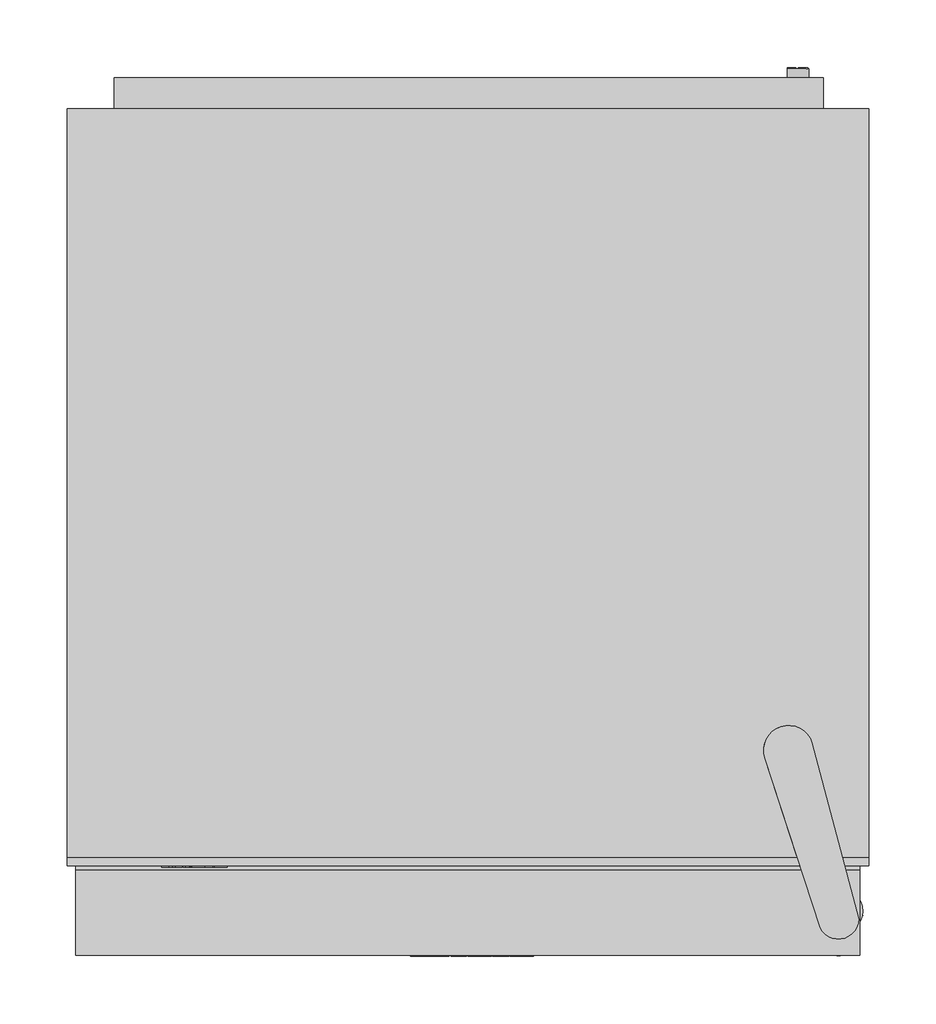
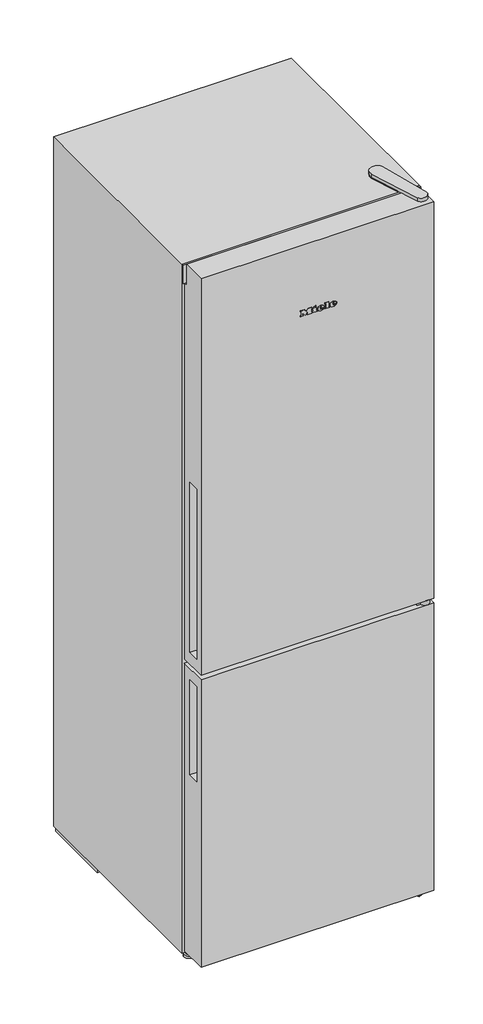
# Not in any storey: 1 proxy.
"""IFC4 building model written with IfcOpenShell, lengths in millimetres."""

import ifcopenshell
import ifcopenshell.guid

model = None  # the IFC model being written
_history = None  # IfcOwnerHistory: only IFC2X3 demands one
_inside = {}  # id of a spatial element -> (the spatial element, [elements in it])
_under = {}  # id of a project, library or spatial element -> (it, [spatial elements below it])
_declared = {}  # id of a project -> (the project, [libraries it declares])
_typed = {}  # id of a type object -> (the type object, [elements of that type])
_made_of = {}  # id of a material, layer set ... -> (it, [elements and type objects made of it])


def new_model(schema):
    """Start an empty IFC model of exactly this schema.

    Asked for "IFC4X3", IfcOpenShell would pick the latest addendum, in which some entities
    have other attributes; the version numbers below select the first issue.
    IFC2X3 requires an IfcOwnerHistory on every rooted entity: one is made here for all.
    """
    global model, _history
    if schema == "IFC4X3":
        model = ifcopenshell.file(schema_version=(4, 3, 0, 0))
    else:
        model = ifcopenshell.file(schema=schema)
    _inside.clear()
    _under.clear()
    _declared.clear()
    _typed.clear()
    _made_of.clear()
    _history = None
    if model.schema == "IFC2X3":
        org = make("IfcOrganization", Name="unknown")
        user = make(
            "IfcPersonAndOrganization",
            ThePerson=make("IfcPerson", FamilyName="unknown"),
            TheOrganization=org,
        )
        app = make(
            "IfcApplication",
            ApplicationDeveloper=org,
            Version="unknown",
            ApplicationFullName="unknown",
            ApplicationIdentifier="unknown",
        )
        _history = make(
            "IfcOwnerHistory",
            OwningUser=user,
            OwningApplication=app,
            ChangeAction="ADDED",
            CreationDate=0,
        )
    return model


def make(cls, **values):
    """One entity of the class cls with the attributes given. An attribute that is None is left unset."""
    return model.create_entity(
        cls, **{name: value for name, value in values.items() if value is not None}
    )


def rooted(cls, **values):
    """An entity with a GlobalId (a new one), such as an element, a storey or a relation."""
    return make(cls, GlobalId=ifcopenshell.guid.new(), OwnerHistory=_history, **values)


def si_unit(unit_type, name, prefix=None):
    """IfcSIUnit, for example si_unit("LENGTHUNIT", "METRE", prefix="MILLI")."""
    return make("IfcSIUnit", UnitType=unit_type, Prefix=prefix, Name=name)


def assignment(units):
    """IfcUnitAssignment: the units of a project."""
    return None if units is None else make("IfcUnitAssignment", Units=units)


def point(xyz):
    """IfcCartesianPoint."""
    return None if xyz is None else make("IfcCartesianPoint", Coordinates=xyz)


def direction(xyz):
    """IfcDirection."""
    return None if xyz is None else make("IfcDirection", DirectionRatios=xyz)


def frame(location, z_axis=None, x_axis=None):
    """IfcAxis2Placement3D, a coordinate frame: its origin and axes. An axis left out is left unset."""
    return make(
        "IfcAxis2Placement3D",
        Location=point(location),
        Axis=direction(z_axis),
        RefDirection=direction(x_axis),
    )


def frame_2d(location, x_axis=None):
    """IfcAxis2Placement2D, a coordinate frame in the plane: its origin and x axis."""
    return make(
        "IfcAxis2Placement2D", Location=point(location), RefDirection=direction(x_axis)
    )


def origin():
    """The frame at (0, 0, 0) with its axes left unset."""
    return frame((0.0, 0.0, 0.0))


def origin_with_axes():
    """The frame at (0, 0, 0) with the z axis (0, 0, 1) and the x axis (1, 0, 0) written out."""
    return frame((0.0, 0.0, 0.0), z_axis=(0.0, 0.0, 1.0), x_axis=(1.0, 0.0, 0.0))


def place(relative_to, where):
    """IfcLocalPlacement: puts the frame where relative to a parent placement (None: the world)."""
    return make(
        "IfcLocalPlacement", PlacementRelTo=relative_to, RelativePlacement=where
    )


def context(
    kind, dimensions, precision=None, world=None, true_north=None, identifier=None
):
    """IfcGeometricRepresentationContext, for example the 3D "Model" context."""
    return make(
        "IfcGeometricRepresentationContext",
        ContextIdentifier=identifier,
        ContextType=kind,
        CoordinateSpaceDimension=dimensions,
        Precision=precision,
        WorldCoordinateSystem=world,
        TrueNorth=true_north,
    )


def project(units=None, contexts=None):
    """IfcProject with its units and contexts."""
    return rooted(
        "IfcProject",
        Name="project",
        RepresentationContexts=contexts,
        UnitsInContext=assignment(units),
    )


def spatial(cls, under=None, at=None, **own):
    """A site, building, storey or space (cls), placed at a placement, below another one or the project."""
    s = rooted(cls, ObjectPlacement=at, **own)
    if under is not None:
        _under.setdefault(under.id(), (under, []))[1].append(s)
    return s


def polyline(points):
    """IfcPolyline through the points."""
    return make("IfcPolyline", Points=[point(p) for p in points])


def circle_curve(where, radius):
    """IfcCircle in the frame where."""
    return make("IfcCircle", Position=where, Radius=radius)


def ellipse_curve(where, semi_axis1, semi_axis2):
    """IfcEllipse in the frame where."""
    return make(
        "IfcEllipse", Position=where, SemiAxis1=semi_axis1, SemiAxis2=semi_axis2
    )


def trimmed(basis, trim1, trim2, sense, master):
    """IfcTrimmedCurve: the piece of a basis curve between two trims."""
    return make(
        "IfcTrimmedCurve",
        BasisCurve=basis,
        Trim1=trim1,
        Trim2=trim2,
        SenseAgreement=sense,
        MasterRepresentation=master,
    )


def segment(curve, same_sense, transition):
    """IfcCompositeCurveSegment."""
    return make(
        "IfcCompositeCurveSegment",
        Transition=transition,
        SameSense=same_sense,
        ParentCurve=curve,
    )


def composite_curve(segments, self_intersect=None):
    """IfcCompositeCurve: segments joined end to end."""
    return make("IfcCompositeCurve", Segments=segments, SelfIntersect=self_intersect)


def outline(outer, holes=None, kind="AREA"):
    """IfcArbitraryClosedProfileDef: a profile drawn as a closed curve; with holes, ...WithVoids."""
    if holes is None:
        return make("IfcArbitraryClosedProfileDef", ProfileType=kind, OuterCurve=outer)
    return make(
        "IfcArbitraryProfileDefWithVoids",
        ProfileType=kind,
        OuterCurve=outer,
        InnerCurves=holes,
    )


def extrude(swept, where, along, depth):
    """IfcExtrudedAreaSolid: the profile swept, set in the frame where, extruded along a direction by depth."""
    return make(
        "IfcExtrudedAreaSolid",
        SweptArea=swept,
        Position=where,
        ExtrudedDirection=direction(along),
        Depth=depth,
    )


def faces_of(points, faces, orient=None, outer=None):
    """IfcFace entities. A face is a list of loops; a loop is a list of indices into points, from 0.

    orient and outer hold one flag for each loop. By default every Orientation is true, the
    first loop of a face is its IfcFaceOuterBound and the others are IfcFaceBound.
    """
    made = []
    for i, loops in enumerate(faces):
        bounds = []
        for j, loop in enumerate(loops):
            is_outer = j == 0 if outer is None else outer[i][j]
            bounds.append(
                make(
                    "IfcFaceOuterBound" if is_outer else "IfcFaceBound",
                    Bound=make("IfcPolyLoop", Polygon=[points[k] for k in loop]),
                    Orientation=True if orient is None else orient[i][j],
                )
            )
        made.append(make("IfcFace", Bounds=bounds))
    return made


def faceted_brep(points, faces, orient=None, outer=None, voids=None):
    """IfcFacetedBrep: a solid bounded by flat faces; with voids (closed shells), ...WithVoids."""
    shared = [point(p) for p in points]
    hull = make("IfcClosedShell", CfsFaces=faces_of(shared, faces, orient, outer))
    if voids is None:
        return make("IfcFacetedBrep", Outer=hull)
    return make(
        "IfcFacetedBrepWithVoids",
        Outer=hull,
        Voids=[
            make(cls, CfsFaces=faces_of(shared, fs, o, b)) for cls, fs, o, b in voids
        ],
    )


def shape(context_of_items, identifier, shape_type, items):
    """IfcShapeRepresentation: the items that make up one representation, for example the "Body"."""
    return make(
        "IfcShapeRepresentation",
        ContextOfItems=context_of_items,
        RepresentationIdentifier=identifier,
        RepresentationType=shape_type,
        Items=items,
    )


def source(mapping_origin, context_of_items, identifier, shape_type, items):
    """IfcRepresentationMap: a shape defined once, which mapped items show again and again."""
    return make(
        "IfcRepresentationMap",
        MappingOrigin=mapping_origin,
        MappedRepresentation=shape(context_of_items, identifier, shape_type, items),
    )


def transform(
    local_origin,
    x_axis=None,
    y_axis=None,
    z_axis=None,
    scale=None,
    scale2=None,
    scale3=None,
    uniform=True,
):
    """IfcCartesianTransformationOperator3D, or its non-uniform kind. x_axis, y_axis, z_axis: its Axis1, 2, 3."""
    if uniform:
        return make(
            "IfcCartesianTransformationOperator3D",
            Axis1=direction(x_axis),
            Axis2=direction(y_axis),
            LocalOrigin=point(local_origin),
            Scale=scale,
            Axis3=direction(z_axis),
        )
    return make(
        "IfcCartesianTransformationOperator3DnonUniform",
        Axis1=direction(x_axis),
        Axis2=direction(y_axis),
        LocalOrigin=point(local_origin),
        Scale=scale,
        Axis3=direction(z_axis),
        Scale2=scale2,
        Scale3=scale3,
    )


def mapped(mapping_source, mapping_target):
    """IfcMappedItem: shows the shape of a source again, moved by a transform."""
    return make(
        "IfcMappedItem", MappingSource=mapping_source, MappingTarget=mapping_target
    )


def made_of(thing, what):
    """Note that an element or type object is made of a material, layer set ...; save() writes the relation."""
    if what is not None:
        _made_of.setdefault(what.id(), (what, []))[1].append(thing)
    return thing


def element(
    cls,
    number,
    at=None,
    inside=None,
    cuts=None,
    type_object=None,
    material=None,
    context=None,
    identifier="Body",
    shape_type=None,
    held_by="IfcProductDefinitionShape",
    body=None,
    shapes=None,
    **own,
):
    """One element of the class cls, such as IfcWall. Its Tag is "e" and its number.

    at: its placement. inside: the storey or other place that contains it. cuts: it is an
    opening in that element (IfcRelVoidsElement). A single representation is given by context,
    identifier, shape_type and body (its items); several are given by shapes. held_by: the class
    of the entity that holds the representations. save() writes the other relations.
    """
    e = rooted(cls, Tag="e%d" % number, ObjectPlacement=at, **own)
    if body is not None:
        shapes = [shape(context, identifier, shape_type, body)]
    if shapes is not None:
        e.Representation = make(held_by, Representations=shapes)
    if inside is not None:
        _inside.setdefault(inside.id(), (inside, []))[1].append(e)
    if cuts is not None:
        rooted(
            "IfcRelVoidsElement", RelatingBuildingElement=cuts, RelatedOpeningElement=e
        )
    if type_object is not None:
        _typed.setdefault(type_object.id(), (type_object, []))[1].append(e)
    return made_of(e, material)


def aggregate(whole, parts):
    """IfcRelAggregates: a whole, such as a stair, and the parts it consists of."""
    return rooted("IfcRelAggregates", RelatingObject=whole, RelatedObjects=parts)


def save(model, path):
    """Write the relations noted so far, then the file.

    IfcRelAggregates (storeys below a building ...), IfcRelContainedInSpatialStructure (elements
    in a storey), IfcRelDefinesByType, IfcRelAssociatesMaterial and IfcRelDeclares: one each for
    every whole, place, type object, material and project.
    """
    for whole, parts in _under.values():
        aggregate(whole, parts)
    for where, things in _inside.values():
        rooted(
            "IfcRelContainedInSpatialStructure",
            RelatedElements=things,
            RelatingStructure=where,
        )
    for kind, things in _typed.values():
        rooted("IfcRelDefinesByType", RelatedObjects=things, RelatingType=kind)
    for what, things in _made_of.values():
        rooted("IfcRelAssociatesMaterial", RelatedObjects=things, RelatingMaterial=what)
    for by, libraries in _declared.values():
        rooted("IfcRelDeclares", RelatingContext=by, RelatedDefinitions=libraries)
    model.write(path)


def plane_surface(at):
    """IfcPlane: the flat surface through the origin of the frame at, square to its z axis."""
    return make("IfcPlane", Position=at)


def cylinder_surface(at, radius):
    """IfcCylindricalSurface: all points at the distance radius from the z axis of the frame at."""
    return make("IfcCylindricalSurface", Position=at, Radius=radius)


def revolved_surface(curve, axis_point, axis_direction):
    """IfcSurfaceOfRevolution: the curve turned about the line through axis_point along axis_direction."""
    return make(
        "IfcSurfaceOfRevolution",
        SweptCurve=make("IfcArbitraryOpenProfileDef", ProfileType="CURVE", Curve=curve),
        AxisPosition=make("IfcAxis1Placement", Location=point(axis_point), Axis=direction(axis_direction)),
    )


def extruded_surface(curve, direction_of_extrusion, depth):
    """IfcSurfaceOfLinearExtrusion: the curve pushed along a direction by depth."""
    return make(
        "IfcSurfaceOfLinearExtrusion",
        SweptCurve=make("IfcArbitraryOpenProfileDef", ProfileType="CURVE", Curve=curve),
        ExtrudedDirection=direction(direction_of_extrusion),
        Depth=depth,
    )


def advanced_brep(points, edges, surfaces, faces):
    """IfcAdvancedBrep: a solid bounded by faces that lie on surfaces and meet in shared edges.

    An edge is (start, end): straight between two places in points (the first is 0);
    or (start, end, curve); or (start, end, curve, False) where it runs against its curve.
    A face is (place in surfaces, loops), or (place, loops, False) where it looks against
    its surface's normal. A loop lists edges by number (the first is 1), with a minus sign
    where the edge is run from its end to its start. The first loop is the outer one.
    """
    corners = [point(p) for p in points]
    vertices = [make("IfcVertexPoint", VertexGeometry=c) for c in corners]
    made = []
    for start, end, *more in edges:
        made.append(
            make(
                "IfcEdgeCurve",
                EdgeStart=vertices[start],
                EdgeEnd=vertices[end],
                EdgeGeometry=more[0] if more else make("IfcPolyline", Points=[corners[start], corners[end]]),
                SameSense=more[1] if len(more) > 1 else True,
            )
        )
    hull = []
    for where, loops, *sense in faces:
        bounds = []
        for j, loop in enumerate(loops):
            ring = [make("IfcOrientedEdge", EdgeElement=made[abs(k) - 1], Orientation=k > 0) for k in loop]
            bounds.append(
                make(
                    "IfcFaceOuterBound" if j == 0 else "IfcFaceBound",
                    Bound=make("IfcEdgeLoop", EdgeList=ring),
                    Orientation=True,
                )
            )
        hull.append(make("IfcAdvancedFace", Bounds=bounds, FaceSurface=surfaces[where], SameSense=sense[0] if sense else True))
    return make("IfcAdvancedBrep", Outer=make("IfcClosedShell", CfsFaces=hull))


def specialty_equipment_6a8d7af3(model_context):
    return source(origin(), model_context, "Body", "SolidModel", [
        advanced_brep(
        [(38.73, -654.0, 1668.515), (38.73, -654.0, 1670.03), (48.765, -654.0, 1670.03), (31.305, -654.0, 1670.03), (35.43, -654.0, 1664.96), (48.51, -654.0, 1668.515), (43.98, -654.0, 1668.515), (40.41, -654.0, 1666.835), (38.73, -654.0, 1671.95), (38.73, -654.0, 1673.585), (41.295, -654.0, 1673.585), (41.295, -654.0, 1671.95), (38.73, -653.0, 1668.515), (40.41, -653.0, 1666.835), (43.98, -653.0, 1668.515), (48.51, -653.0, 1668.515), (35.43, -653.0, 1664.96), (31.305, -653.0, 1670.03), (48.765, -653.0, 1670.03), (38.73, -653.0, 1670.03), (38.73, -653.0, 1671.95), (41.295, -653.0, 1671.95), (41.295, -653.0, 1673.585), (38.73, -653.0, 1673.585)],
        [
            (0, 1),
            (1, 2),
            (2, 3, ellipse_curve(frame((40.035, -654.0, 1670.03), z_axis=(0.0, -1.0, 0.0), x_axis=(-1.0, 0.0, 0.0)), 8.73, 7.215)),
            (3, 4, circle_curve(frame((37.1100818, -654.0, 1670.54), z_axis=(0.0, -1.0, 0.0), x_axis=(0.0, 0.0, -1.0)), 5.8274415)),
            (4, 5, circle_curve(frame((39.860238, -654.0, 1674.5), z_axis=(0.0, -1.0, 0.0), x_axis=(0.0, 0.0, -1.0)), 10.5184889)),
            (5, 6),
            (6, 7, circle_curve(frame((41.1432353, -654.0, 1669.91), z_axis=(0.0, 1.0, 0.0), x_axis=(0.0, 0.0, -1.0)), 3.1612116)),
            (7, 0, circle_curve(frame((40.41, -654.0, 1668.515), z_axis=(0.0, 1.0, 0.0), x_axis=(0.0, 0.0, -1.0)), 1.68)),
            (8, 9),
            (9, 10, circle_curve(frame((40.0125, -654.0, 1673.585), z_axis=(0.0, 1.0, 0.0), x_axis=(0.0, 0.0, -1.0)), 1.2825)),
            (10, 11),
            (11, 8),
            (12, 13, circle_curve(frame((40.41, -653.0, 1668.515), z_axis=(0.0, -1.0, 0.0), x_axis=(0.0, 0.0, -1.0)), 1.68)),
            (13, 14, circle_curve(frame((41.1432353, -653.0, 1669.91), z_axis=(0.0, -1.0, 0.0), x_axis=(0.0, 0.0, -1.0)), 3.1612116)),
            (14, 15),
            (15, 16, circle_curve(frame((39.860238, -653.0, 1674.5), z_axis=(0.0, 1.0, 0.0), x_axis=(0.0, 0.0, -1.0)), 10.5184889)),
            (16, 17, circle_curve(frame((37.1100818, -653.0, 1670.54), z_axis=(0.0, 1.0, 0.0), x_axis=(0.0, 0.0, -1.0)), 5.8274415)),
            (17, 18, ellipse_curve(frame((40.035, -653.0, 1670.03), z_axis=(0.0, 1.0, 0.0), x_axis=(-1.0, 0.0, 0.0)), 8.73, 7.215)),
            (18, 19),
            (19, 12),
            (20, 21),
            (21, 22),
            (22, 23, circle_curve(frame((40.0125, -653.0, 1673.585), z_axis=(0.0, -1.0, 0.0), x_axis=(0.0, 0.0, -1.0)), 1.2825)),
            (23, 20),
            (0, 12),
            (19, 1),
            (18, 2),
            (5, 15),
            (14, 6),
            (17, 3),
            (13, 7),
            (16, 4),
            (8, 20),
            (23, 9),
            (22, 10),
            (21, 11),
        ],
        [
            plane_surface(frame((38.73, -654.0, 1670.03), z_axis=(0.0, -1.0, 0.0), x_axis=(0.0, 0.0, 1.0))),
            plane_surface(frame((38.73, -653.0, 1670.03), z_axis=(0.0, 1.0, 0.0), x_axis=(0.0, 0.0, -1.0))),
            plane_surface(frame((38.73, -654.0, 1668.515), z_axis=(1.0, 0.0, 0.0), x_axis=(0.0, 1.0, 0.0))),
            plane_surface(frame((38.73, -654.0, 1670.03), z_axis=(0.0, 0.0, -1.0), x_axis=(0.0, 1.0, 0.0))),
            plane_surface(frame((48.51, -654.0, 1668.515), z_axis=(0.0, 0.0, 1.0), x_axis=(0.0, 1.0, 0.0))),
            extruded_surface(trimmed(ellipse_curve(frame((40.035, -652.0, 1670.03), z_axis=(0.0, -1.0, 0.0), x_axis=(-1.0, 0.0, 0.0)), 8.73, 7.215), [point((48.765, -652.0, 1670.03))], [point((31.305, -652.0, 1670.03))], True, "CARTESIAN"), (0.0, -1.0, 0.0), 1.0),
            revolved_surface(polyline([(41.1432353, -653.0, 1666.7487884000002), (41.1432353, -654.0, 1666.7487884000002)]), (41.1432353, -653.0, 1669.91), (0.0, 1.0, 0.0)),
            revolved_surface(polyline([(40.41, -653.0, 1666.835), (40.41, -654.0, 1666.835)]), (40.41, -653.0, 1668.515), (0.0, 1.0, 0.0)),
            cylinder_surface(frame((37.1100818, -653.0, 1670.54), z_axis=(0.0, -1.0, 0.0), x_axis=(0.0, 0.0, -1.0)), 5.8274415),
            cylinder_surface(frame((39.860238, -653.0, 1674.5), z_axis=(0.0, -1.0, 0.0), x_axis=(0.0, 0.0, -1.0)), 10.5184889),
            plane_surface(frame((38.73, -654.0, 1671.95), z_axis=(1.0, 0.0, 0.0), x_axis=(0.0, 1.0, 0.0))),
            revolved_surface(polyline([(40.0125, -653.0, 1672.3025), (40.0125, -654.0, 1672.3025)]), (40.0125, -653.0, 1673.585), (0.0, 1.0, 0.0)),
            plane_surface(frame((41.295, -654.0, 1673.585), z_axis=(-1.0, 0.0, 0.0), x_axis=(0.0, 1.0, 0.0))),
            plane_surface(frame((41.295, -654.0, 1671.95), z_axis=(0.0, 0.0, 1.0), x_axis=(0.0, 1.0, 0.0))),
        ],
        [
            (0, [[1, 2, 3, 4, 5, 6, 7, 8], [9, 10, 11, 12]]),
            (1, [[13, 14, 15, 16, 17, 18, 19, 20], [21, 22, 23, 24]]),
            (2, [[-1, 25, -20, 26]]),
            (3, [[-2, -26, -19, 27]]),
            (4, [[-6, 28, -15, 29]]),
            (5, [[-3, -27, -18, 30]]),
            (6, [[-7, -29, -14, 31]]),
            (7, [[-8, -31, -13, -25]]),
            (8, [[-4, -30, -17, 32]]),
            (9, [[-5, -32, -16, -28]]),
            (10, [[-9, 33, -24, 34]]),
            (11, [[-10, -34, -23, 35]]),
            (12, [[-11, -35, -22, 36]]),
            (13, [[-12, -36, -21, -33]]),
        ],
    ),
        advanced_brep(
        [(7.425, -654.0, 1668.515), (7.425, -654.0, 1670.03), (17.46, -654.0, 1670.03), (0.0, -654.0, 1670.03), (4.125, -654.0, 1664.96), (17.205, -654.0, 1668.515), (12.675, -654.0, 1668.515), (9.105, -654.0, 1666.835), (7.425, -654.0, 1671.95), (7.425, -654.0, 1673.585), (9.99, -654.0, 1673.585), (9.99, -654.0, 1671.95), (7.425, -653.0, 1668.515), (9.105, -653.0, 1666.835), (12.675, -653.0, 1668.515), (17.205, -653.0, 1668.515), (4.125, -653.0, 1664.96), (0.0, -653.0, 1670.03), (17.46, -653.0, 1670.03), (7.425, -653.0, 1670.03), (7.425, -653.0, 1671.95), (9.99, -653.0, 1671.95), (9.99, -653.0, 1673.585), (7.425, -653.0, 1673.585)],
        [
            (0, 1),
            (1, 2),
            (2, 3, ellipse_curve(frame((8.73, -654.0, 1670.03), z_axis=(0.0, -1.0, 0.0), x_axis=(-1.0, 0.0, 0.0)), 8.73, 7.215)),
            (3, 4, circle_curve(frame((5.8050818, -654.0, 1670.54), z_axis=(0.0, -1.0, 0.0), x_axis=(0.0, 0.0, -1.0)), 5.8274415)),
            (4, 5, circle_curve(frame((8.555238, -654.0, 1674.5), z_axis=(0.0, -1.0, 0.0), x_axis=(0.0, 0.0, -1.0)), 10.5184889)),
            (5, 6),
            (6, 7, circle_curve(frame((9.8382353, -654.0, 1669.91), z_axis=(0.0, 1.0, 0.0), x_axis=(0.0, 0.0, -1.0)), 3.1612116)),
            (7, 0, circle_curve(frame((9.105, -654.0, 1668.515), z_axis=(0.0, 1.0, 0.0), x_axis=(0.0, 0.0, -1.0)), 1.68)),
            (8, 9),
            (9, 10, circle_curve(frame((8.7075, -654.0, 1673.585), z_axis=(0.0, 1.0, 0.0), x_axis=(0.0, 0.0, -1.0)), 1.2825)),
            (10, 11),
            (11, 8),
            (12, 13, circle_curve(frame((9.105, -653.0, 1668.515), z_axis=(0.0, -1.0, 0.0), x_axis=(0.0, 0.0, -1.0)), 1.68)),
            (13, 14, circle_curve(frame((9.8382353, -653.0, 1669.91), z_axis=(0.0, -1.0, 0.0), x_axis=(0.0, 0.0, -1.0)), 3.1612116)),
            (14, 15),
            (15, 16, circle_curve(frame((8.555238, -653.0, 1674.5), z_axis=(0.0, 1.0, 0.0), x_axis=(0.0, 0.0, -1.0)), 10.5184889)),
            (16, 17, circle_curve(frame((5.8050818, -653.0, 1670.54), z_axis=(0.0, 1.0, 0.0), x_axis=(0.0, 0.0, -1.0)), 5.8274415)),
            (17, 18, ellipse_curve(frame((8.73, -653.0, 1670.03), z_axis=(0.0, 1.0, 0.0), x_axis=(-1.0, 0.0, 0.0)), 8.73, 7.215)),
            (18, 19),
            (19, 12),
            (20, 21),
            (21, 22),
            (22, 23, circle_curve(frame((8.7075, -653.0, 1673.585), z_axis=(0.0, -1.0, 0.0), x_axis=(0.0, 0.0, -1.0)), 1.2825)),
            (23, 20),
            (0, 12),
            (19, 1),
            (18, 2),
            (5, 15),
            (14, 6),
            (17, 3),
            (13, 7),
            (16, 4),
            (8, 20),
            (23, 9),
            (22, 10),
            (21, 11),
        ],
        [
            plane_surface(frame((7.425, -654.0, 1670.03), z_axis=(0.0, -1.0, 0.0), x_axis=(0.0, 0.0, 1.0))),
            plane_surface(frame((7.425, -653.0, 1670.03), z_axis=(0.0, 1.0, 0.0), x_axis=(0.0, 0.0, -1.0))),
            plane_surface(frame((7.425, -654.0, 1668.515), z_axis=(1.0, 0.0, 0.0), x_axis=(0.0, 1.0, 0.0))),
            plane_surface(frame((7.425, -654.0, 1670.03), z_axis=(0.0, 0.0, -1.0), x_axis=(0.0, 1.0, 0.0))),
            plane_surface(frame((17.205, -654.0, 1668.515), z_axis=(0.0, 0.0, 1.0), x_axis=(0.0, 1.0, 0.0))),
            extruded_surface(trimmed(ellipse_curve(frame((8.73, -652.0, 1670.03), z_axis=(0.0, -1.0, 0.0), x_axis=(-1.0, 0.0, 0.0)), 8.73, 7.215), [point((17.46, -652.0, 1670.03))], [point((0.0, -652.0, 1670.03))], True, "CARTESIAN"), (0.0, -1.0, 0.0), 1.0),
            revolved_surface(polyline([(9.8382353, -653.0, 1666.7487884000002), (9.8382353, -654.0, 1666.7487884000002)]), (9.8382353, -653.0, 1669.91), (0.0, 1.0, 0.0)),
            revolved_surface(polyline([(9.105, -653.0, 1666.835), (9.105, -654.0, 1666.835)]), (9.105, -653.0, 1668.515), (0.0, 1.0, 0.0)),
            cylinder_surface(frame((5.8050818, -653.0, 1670.54), z_axis=(0.0, -1.0, 0.0), x_axis=(0.0, 0.0, -1.0)), 5.8274415),
            cylinder_surface(frame((8.555238, -653.0, 1674.5), z_axis=(0.0, -1.0, 0.0), x_axis=(0.0, 0.0, -1.0)), 10.5184889),
            plane_surface(frame((7.425, -654.0, 1671.95), z_axis=(1.0, 0.0, 0.0), x_axis=(0.0, 1.0, 0.0))),
            revolved_surface(polyline([(8.7075, -653.0, 1672.3025), (8.7075, -654.0, 1672.3025)]), (8.7075, -653.0, 1673.585), (0.0, 1.0, 0.0)),
            plane_surface(frame((9.99, -654.0, 1673.585), z_axis=(-1.0, 0.0, 0.0), x_axis=(0.0, 1.0, 0.0))),
            plane_surface(frame((9.99, -654.0, 1671.95), z_axis=(0.0, 0.0, 1.0), x_axis=(0.0, 1.0, 0.0))),
        ],
        [
            (0, [[1, 2, 3, 4, 5, 6, 7, 8], [9, 10, 11, 12]]),
            (1, [[13, 14, 15, 16, 17, 18, 19, 20], [21, 22, 23, 24]]),
            (2, [[-1, 25, -20, 26]]),
            (3, [[-2, -26, -19, 27]]),
            (4, [[-6, 28, -15, 29]]),
            (5, [[-3, -27, -18, 30]]),
            (6, [[-7, -29, -14, 31]]),
            (7, [[-8, -31, -13, -25]]),
            (8, [[-4, -30, -17, 32]]),
            (9, [[-5, -32, -16, -28]]),
            (10, [[-9, 33, -24, 34]]),
            (11, [[-10, -34, -23, 35]]),
            (12, [[-11, -35, -22, 36]]),
            (13, [[-12, -36, -21, -33]]),
        ],
    ),
        extrude(outline(polyline([(1679.075, -8.97), (1676.645, -7.83), (1679.015, -2.745), (1681.445, -3.87), (1679.075, -8.97)])), frame((0.0, -654.0, 0.0), z_axis=(0.0, 1.0, 0.0), x_axis=(0.0, 0.0, 1.0)), (0.0, 0.0, 1.0), 1.0),
        extrude(outline(polyline([(1676.315, -12.675), (1673.63, -12.675), (1673.63, -10.89), (1667.48, -10.89), (1667.48, -12.675), (1664.96, -12.675), (1664.96, -0.84), (1667.48, -0.84), (1667.48, -2.58), (1676.315, -2.58), (1676.315, -12.675)])), frame((0.0, -654.0, 0.0), z_axis=(0.0, 1.0, 0.0), x_axis=(0.0, 0.0, 1.0)), (0.0, 0.0, 1.0), 1.0),
        extrude(outline(polyline([(1677.515, 18.3), (1677.515, 20.1), (1667.48, 20.1), (1667.48, 18.3), (1664.96, 18.3), (1664.96, 30.465), (1667.48, 30.465), (1667.48, 28.62), (1679.96, 28.62), (1679.96, 18.3), (1677.515, 18.3)])), frame((0.0, -654.0, 0.0), z_axis=(0.0, 1.0, 0.0), x_axis=(0.0, 0.0, 1.0)), (0.0, 0.0, 1.0), 1.0),
        extrude(outline(polyline([(1677.515, -42.57), (1677.515, -40.755), (1667.48, -40.755), (1667.48, -42.57), (1664.96, -42.57), (1664.96, -35.97), (1667.48, -35.97), (1667.48, -37.77), (1673.8161247, -37.77), (1664.96, -31.065), (1674.1502223, -24.33), (1667.48, -24.33), (1667.48, -26.175), (1664.96, -26.175), (1664.96, -14.205), (1667.48, -14.205), (1667.48, -16.11), (1677.515, -16.11), (1677.515, -14.205), (1679.96, -14.205), (1679.96, -23.34), (1674.335, -27.72), (1679.96, -32.115), (1679.96, -42.57), (1677.515, -42.57)])), frame((0.0, -654.0, 0.0), z_axis=(0.0, 1.0, 0.0), x_axis=(0.0, 0.0, 1.0)), (0.0, 0.0, 1.0), 1.0),
        faceted_brep([(298.5, -23.0, 1850.0), (-298.5, -23.0, 1850.0), (-298.5, -580.0, 1850.0), (298.5, -580.0, 1850.0), (298.5, -23.0, 19.0), (298.5, -580.0, 19.0), (-298.5, -580.0, 19.0), (-298.5, -23.0, 19.0), (-234.0, -580.0, 1766.0), (234.0, -580.0, 1766.0), (234.0, -580.0, 827.0), (-234.0, -580.0, 827.0), (-234.0, -580.0, 733.0), (234.0, -580.0, 733.0), (234.0, -580.0, 109.0), (-234.0, -580.0, 109.0), (-234.0, -63.0, 1766.0), (234.0, -63.0, 1766.0), (234.0, -63.0, 827.0), (-234.0, -63.0, 827.0), (-234.0, -63.0, 733.0), (234.0, -63.0, 733.0), (234.0, -63.0, 109.0), (-234.0, -63.0, 109.0)], [[[0, 1, 2, 3]], [[4, 5, 6, 7]], [[1, 0, 4, 7]], [[2, 1, 7, 6]], [[3, 2, 6, 5], [8, 9, 10, 11], [12, 13, 14, 15]], [[0, 3, 5, 4]], [[16, 17, 9, 8]], [[18, 19, 11, 10]], [[17, 16, 19, 18]], [[19, 16, 8, 11]], [[17, 18, 10, 9]], [[20, 21, 13, 12]], [[22, 23, 15, 14]], [[21, 20, 23, 22]], [[23, 20, 12, 15]], [[21, 22, 14, 13]]]),
        extrude(outline(composite_curve([segment(polyline([(-56.420729, 6.1484915), (-39.9901847, 6.1484915)]), True, "CONTINUOUS"), segment(trimmed(circle_curve(frame_2d((-48.2054569, 8.6902384)), 8.5994869), [point((-39.9901847, 6.1484915))], [point((-56.420729, 6.1484915))], False, "CARTESIAN"), True, "CONTINUOUS")], self_intersect=False)), frame((264.4820102, 0.0, 0.0), z_axis=(1.0, 0.0, 0.0), x_axis=(0.0, 1.0, 0.0)), (0.0, 0.0, 1.0), 17.0656722),
        extrude(outline(composite_curve([segment(trimmed(circle_curve(frame_2d((-274.5, -569.6105025)), 7.4374754), [point((-281.9374754, -569.6105025))], [point((-267.0625246, -569.6105025))], False, "CARTESIAN"), True, "CONTINUOUS"), segment(trimmed(circle_curve(frame_2d((-274.5, -569.6105025)), 7.4374754), [point((-267.0625246, -569.6105025))], [point((-281.9374754, -569.6105025))], False, "CARTESIAN"), True, "CONTINUOUS")], self_intersect=False)), frame((0.0, 0.0, 6.1484915), z_axis=(0.0, 0.0, 1.0), x_axis=(1.0, 0.0, 0.0)), (0.0, 0.0, 1.0), 12.8515085),
        extrude(outline(composite_curve([segment(trimmed(circle_curve(frame_2d((-274.5, -569.7060517)), 12.797253), [point((-287.297253, -569.7060517))], [point((-261.702747, -569.7060517))], False, "CARTESIAN"), True, "CONTINUOUS"), segment(trimmed(circle_curve(frame_2d((-274.5, -569.7060517)), 12.797253), [point((-261.702747, -569.7060517))], [point((-287.297253, -569.7060517))], False, "CARTESIAN"), True, "CONTINUOUS")], self_intersect=False)), origin_with_axes(), (0.0, 0.0, 1.0), 6.1484915),
        extrude(outline(polyline([(298.5, -586.4996489), (-298.5, -586.4996489), (-298.5, -580.0), (298.5, -580.0), (298.5, -586.4996489)])), frame((0.0, 0.0, 1801.2229618), z_axis=(0.0, 0.0, 1.0), x_axis=(1.0, 0.0, 0.0)), (0.0, 0.0, 1.0), 48.7770382),
        extrude(outline(polyline([(277.7112582, -200.120515), (251.0987637, -200.120515), (251.0987637, -87.2190022), (277.7112582, -87.2190022), (277.7112582, -200.120515)])), origin_with_axes(), (0.0, 0.0, 1.0), 6.1484915),
        extrude(outline(polyline([(251.0987637, -26.8205259), (291.0987637, -26.8205259), (291.0987637, -206.6206354), (251.0987637, -206.6206354), (251.0987637, -26.8205259)])), frame((0.0, 0.0, 6.1484915), z_axis=(0.0, 0.0, 1.0), x_axis=(1.0, 0.0, 0.0)), (0.0, 0.0, 1.0), 12.8515085),
        extrude(outline(composite_curve([segment(polyline([(-56.420729, 6.1484915), (-39.9901847, 6.1484915)]), True, "CONTINUOUS"), segment(trimmed(circle_curve(frame_2d((-48.2054569, 8.6902384)), 8.5994869), [point((-39.9901847, 6.1484915))], [point((-56.420729, 6.1484915))], False, "CARTESIAN"), True, "CONTINUOUS")], self_intersect=False)), frame((-281.5476824, 0.0, 0.0), z_axis=(1.0, 0.0, 0.0), x_axis=(0.0, 1.0, 0.0)), (0.0, 0.0, 1.0), 17.0656722),
        extrude(outline(polyline([(-277.7112582, -200.120515), (-277.7112582, -87.2190022), (-252.7112582, -87.2190022), (-252.7112582, -200.120515), (-277.7112582, -200.120515)])), origin_with_axes(), (0.0, 0.0, 1.0), 6.1484915),
        extrude(outline(polyline([(-252.7112582, -26.8205259), (-252.7112582, -206.6206354), (-295.0984336, -206.6206354), (-295.0984336, -26.8205259), (-252.7112582, -26.8205259)])), frame((0.0, 0.0, 6.1484915), z_axis=(0.0, 0.0, 1.0), x_axis=(1.0, 0.0, 0.0)), (0.0, 0.0, 1.0), 12.8515085),
        extrude(outline(polyline([(244.9015664, -32.3201), (244.9015664, -206.6206354), (-245.4999985, -206.6206354), (-245.4999985, -32.3201), (244.9015664, -32.3201)])), frame((0.0, 0.0, 6.1484915), z_axis=(0.0, 0.0, 1.0), x_axis=(1.0, 0.0, 0.0)), (0.0, 0.0, 1.0), 12.8515085),
        extrude(outline(polyline([(264.8461624, -23.0), (-263.5, -23.0), (-263.5, 0.0), (264.8461624, 0.0), (264.8461624, -23.0)])), frame((0.0, 0.0, 231.5932438), z_axis=(0.0, 0.0, 1.0), x_axis=(1.0, 0.0, 0.0)), (0.0, 0.0, 1.0), 1494.4067562),
        extrude(outline(polyline([(168.0, 253.3772603), (178.045631, 253.3772603), (178.045631, 246.156963), (176.7899271, 246.156963), (176.7899271, 252.1215564), (173.8076304, 252.1215564), (173.8076304, 246.470889), (172.5519266, 246.470889), (172.5519266, 252.1215564), (169.2557039, 252.1215564), (169.2557039, 246.0), (168.0, 246.0), (168.0, 253.3772603)])), frame((0.0, 7.0, 0.0), z_axis=(0.0, 1.0, 0.0), x_axis=(0.0, 0.0, 1.0)), (0.0, 0.0, 1.0), 1.0),
        extrude(outline(polyline([(168.0, 244.1164442), (178.045631, 244.1164442), (178.045631, 242.8607403), (169.2557039, 242.8607403), (169.2557039, 237.8379248), (168.0, 237.8379248), (168.0, 244.1164442)])), frame((0.0, 7.0, 0.0), z_axis=(0.0, 1.0, 0.0), x_axis=(0.0, 0.0, 1.0)), (0.0, 0.0, 1.0), 1.0),
        extrude(outline(composite_curve([segment(trimmed(circle_curve(frame_2d((173.0, 246.0)), 8.0), [point((173.0, 238.0))], [point((173.0, 254.0))], False, "CARTESIAN"), True, "CONTINUOUS"), segment(trimmed(circle_curve(frame_2d((173.0, 246.0)), 8.0), [point((173.0, 254.0))], [point((173.0, 238.0))], False, "CARTESIAN"), True, "CONTINUOUS")], self_intersect=False)), frame((0.0, -23.0, 0.0), z_axis=(0.0, 1.0, 0.0), x_axis=(0.0, 0.0, 1.0)), (0.0, 0.0, 1.0), 30.0),
        extrude(outline(polyline([(255.1369404, -644.0500518), (255.1369404, -589.0), (292.0, -589.0), (292.0, -629.2312633), (263.6572781, -629.2312633), (263.6572781, -644.0500518), (255.1369404, -644.0500518)])), frame((0.0, 0.0, 788.0), z_axis=(0.0, 0.0, 1.0), x_axis=(1.0, 0.0, 0.0)), (0.0, 0.0, 1.0), 11.7998428),
        extrude(outline(composite_curve([segment(trimmed(circle_curve(frame_2d((276.0, -641.3479469)), 12.0), [point((264.0, -641.3479469))], [point((288.0, -641.3479469))], False, "CARTESIAN"), True, "CONTINUOUS"), segment(trimmed(circle_curve(frame_2d((276.0, -641.3479469)), 12.0), [point((288.0, -641.3479469))], [point((264.0, -641.3479469))], False, "CARTESIAN"), True, "CONTINUOUS")], self_intersect=False)), frame((0.0, 0.0, 788.0), z_axis=(0.0, 0.0, 1.0), x_axis=(1.0, 0.0, 0.0)), (0.0, 0.0, 1.0), 11.7998428),
        faceted_brep([(292.0, -653.0, 788.0), (-292.0, -653.0, 788.0), (-292.0, -653.0, 24.0), (292.0, -653.0, 24.0), (292.0, -580.0, 788.0), (292.0, -580.0, 24.0), (-292.0, -580.0, 24.0), (-292.0, -580.0, 788.0), (-292.0, -635.0, 758.0), (-292.0, -635.0, 506.0121804), (-292.0, -604.4897883, 506.0121804), (-292.0, -604.4897883, 758.0), (-268.2740132, -635.0, 758.0), (-268.2740132, -604.4897883, 758.0), (-268.2740132, -604.4897883, 506.0121804), (-268.2740132, -635.0, 506.0121804)], [[[0, 1, 2, 3]], [[4, 5, 6, 7]], [[1, 0, 4, 7]], [[2, 1, 7, 6], [8, 9, 10, 11]], [[3, 2, 6, 5]], [[0, 3, 5, 4]], [[12, 13, 14, 15]], [[12, 15, 9, 8]], [[15, 14, 10, 9]], [[14, 13, 11, 10]], [[13, 12, 8, 11]]]),
        extrude(outline(composite_curve([segment(trimmed(circle_curve(frame_2d((255.0, -586.0)), 13.0), [point((242.0, -586.0))], [point((268.0, -586.0))], False, "CARTESIAN"), True, "CONTINUOUS"), segment(trimmed(circle_curve(frame_2d((255.0, -586.0)), 13.0), [point((268.0, -586.0))], [point((242.0, -586.0))], False, "CARTESIAN"), True, "CONTINUOUS")], self_intersect=False)), origin_with_axes(), (0.0, 0.0, 1.0), 6.9998158),
        extrude(outline(composite_curve([segment(trimmed(circle_curve(frame_2d((276.9946442, -619.9124361)), 17.0), [point((259.9946442, -619.9124361))], [point((293.9946442, -619.9124361))], False, "CARTESIAN"), True, "CONTINUOUS"), segment(trimmed(circle_curve(frame_2d((276.9946442, -619.9124361)), 17.0), [point((293.9946442, -619.9124361))], [point((259.9946442, -619.9124361))], False, "CARTESIAN"), True, "CONTINUOUS")], self_intersect=False)), frame((0.0, 0.0, 18.8964761), z_axis=(0.0, 0.0, 1.0), x_axis=(1.0, 0.0, 0.0)), (0.0, 0.0, 1.0), 5.1035239),
        extrude(outline(polyline([(294.0677389, -623.5579978), (264.4272141, -637.8371511), (205.1568838, -531.0918017), (240.1598028, -511.6564392), (294.0677389, -623.5579978)])), frame((0.0, 0.0, 6.9998158), z_axis=(0.0, 0.0, 1.0), x_axis=(1.0, 0.0, 0.0)), (0.0, 0.0, 1.0), 11.8966603),
        extrude(outline(composite_curve([segment(polyline([(276.4367298, -571.0430426), (245.1616399, -579.2864892), (221.3582255, -506.2033511)]), True, "CONTINUOUS"), segment(trimmed(circle_curve(frame_2d((238.85062, -500.5060216)), 18.3968321), [point((221.3582255, -506.2033511))], [point((256.3428386, -494.8081519))], False, "CARTESIAN"), True, "CONTINUOUS"), segment(polyline([(256.3428386, -494.8081519), (276.4367298, -571.0430426)]), True, "CONTINUOUS")], self_intersect=False)), frame((0.0, 0.0, 1849.9998428), z_axis=(0.0, 0.0, 1.0), x_axis=(1.0, 0.0, 0.0)), (0.0, 0.0, 1.0), 2.8),
        extrude(outline(composite_curve([segment(polyline([(262.5128912, -632.5530567), (221.3582255, -506.2033511)]), True, "CONTINUOUS"), segment(trimmed(circle_curve(frame_2d((238.850532, -500.5057515)), 18.3968321), [point((221.3582255, -506.2033511))], [point((256.3428386, -494.8081519))], False, "CARTESIAN"), True, "CONTINUOUS"), segment(polyline([(256.3428386, -494.8081519), (291.0205136, -626.3729512)]), True, "CONTINUOUS"), segment(trimmed(circle_curve(frame_2d((276.0339956, -626.0831703)), 14.9893193), [point((291.0205136, -626.3729512))], [point((262.5128912, -632.5530567))], False, "CARTESIAN"), True, "CONTINUOUS")], self_intersect=False)), frame((0.0, 0.0, 1852.7998428), z_axis=(0.0, 0.0, 1.0), x_axis=(1.0, 0.0, 0.0)), (0.0, 0.0, 1.0), 9.2001572),
        extrude(outline(polyline([(292.0, -589.0), (162.9885295, -589.0), (162.9885295, -580.0), (292.0, -580.0), (292.0, -589.0)])), frame((0.0, 0.0, 788.0), z_axis=(0.0, 0.0, 1.0), x_axis=(1.0, 0.0, 0.0)), (0.0, 0.0, 1.0), 11.7998428),
        faceted_brep([(292.0, -653.0, 1852.7998428), (-292.0, -653.0, 1852.7998428), (-292.0, -653.0, 799.7998428), (292.0, -653.0, 799.7998428), (292.0, -580.0, 799.7998428), (-292.0, -580.0, 799.7998428), (-292.0, -580.0, 1796.7998428), (292.0, -580.0, 1796.7998428), (292.0, -589.8392038, 1852.7998428), (-292.0, -589.8392038, 1852.7998428), (-292.0, -589.8392038, 1796.7998428), (-292.0, -604.4876108, 831.0997411), (-292.0, -604.4876108, 1283.0), (-292.0, -635.0, 1283.0), (-292.0, -635.0, 831.0997411), (292.0, -589.8392038, 1796.7998428), (-268.2740132, -604.4876108, 831.0997411), (-268.2740132, -635.0, 831.0997411), (-268.2740132, -635.0, 1283.0), (-268.2740132, -604.4876108, 1283.0)], [[[0, 1, 2, 3]], [[4, 5, 6, 7]], [[1, 0, 8, 9]], [[2, 1, 9, 10, 6, 5], [11, 12, 13, 14]], [[3, 2, 5, 4]], [[0, 3, 4, 7, 15, 8]], [[15, 10, 9, 8]], [[10, 15, 7, 6]], [[16, 17, 18, 19]], [[16, 19, 12, 11]], [[19, 18, 13, 12]], [[18, 17, 14, 13]], [[17, 16, 11, 14]]]),
        advanced_brep(
        [(-184.64, -587.4996489, 1823.3934838), (-184.64, -587.4996489, 1824.2014838), (-179.288, -587.4996489, 1824.2014838), (-188.6, -587.4996489, 1824.2014838), (-186.4, -587.4996489, 1821.4974838), (-179.424, -587.4996489, 1823.3934838), (-181.84, -587.4996489, 1823.3934838), (-183.744, -587.4996489, 1822.4974838), (-184.64, -587.4996489, 1825.2254838), (-184.64, -587.4996489, 1826.0974838), (-183.272, -587.4996489, 1826.0974838), (-183.272, -587.4996489, 1825.2254838), (-184.64, -586.4996489, 1823.3934838), (-183.744, -586.4996489, 1822.4974838), (-181.84, -586.4996489, 1823.3934838), (-179.424, -586.4996489, 1823.3934838), (-186.4, -586.4996489, 1821.4974838), (-188.6, -586.4996489, 1824.2014838), (-179.288, -586.4996489, 1824.2014838), (-184.64, -586.4996489, 1824.2014838), (-184.64, -586.4996489, 1825.2254838), (-183.272, -586.4996489, 1825.2254838), (-183.272, -586.4996489, 1826.0974838), (-184.64, -586.4996489, 1826.0974838)],
        [
            (0, 1),
            (1, 2),
            (2, 3, ellipse_curve(frame((-183.944, -587.4996489, 1824.2014838), z_axis=(0.0, -1.0, 0.0), x_axis=(-1.0, 0.0, 0.0)), 4.656, 3.848)),
            (3, 4, circle_curve(frame((-185.5039564, -587.4996489, 1824.4734838), z_axis=(0.0, -1.0, 0.0), x_axis=(0.0, 0.0, -1.0)), 3.1079688)),
            (4, 5, circle_curve(frame((-184.0372064, -587.4996489, 1826.5854838), z_axis=(0.0, -1.0, 0.0), x_axis=(0.0, 0.0, -1.0)), 5.6098607)),
            (5, 6),
            (6, 7, circle_curve(frame((-183.3529412, -587.4996489, 1824.1374838), z_axis=(0.0, 1.0, 0.0), x_axis=(0.0, 0.0, -1.0)), 1.6859795)),
            (7, 0, circle_curve(frame((-183.744, -587.4996489, 1823.3934838), z_axis=(0.0, 1.0, 0.0), x_axis=(0.0, 0.0, -1.0)), 0.896)),
            (8, 9),
            (9, 10, circle_curve(frame((-183.956, -587.4996489, 1826.0974838), z_axis=(0.0, 1.0, 0.0), x_axis=(0.0, 0.0, -1.0)), 0.684)),
            (10, 11),
            (11, 8),
            (12, 13, circle_curve(frame((-183.744, -586.4996489, 1823.3934838), z_axis=(0.0, -1.0, 0.0), x_axis=(0.0, 0.0, -1.0)), 0.896)),
            (13, 14, circle_curve(frame((-183.3529412, -586.4996489, 1824.1374838), z_axis=(0.0, -1.0, 0.0), x_axis=(0.0, 0.0, -1.0)), 1.6859795)),
            (14, 15),
            (15, 16, circle_curve(frame((-184.0372064, -586.4996489, 1826.5854838), z_axis=(0.0, 1.0, 0.0), x_axis=(0.0, 0.0, -1.0)), 5.6098607)),
            (16, 17, circle_curve(frame((-185.5039564, -586.4996489, 1824.4734838), z_axis=(0.0, 1.0, 0.0), x_axis=(0.0, 0.0, -1.0)), 3.1079688)),
            (17, 18, ellipse_curve(frame((-183.944, -586.4996489, 1824.2014838), z_axis=(0.0, 1.0, 0.0), x_axis=(-1.0, 0.0, 0.0)), 4.656, 3.848)),
            (18, 19),
            (19, 12),
            (20, 21),
            (21, 22),
            (22, 23, circle_curve(frame((-183.956, -586.4996489, 1826.0974838), z_axis=(0.0, -1.0, 0.0), x_axis=(0.0, 0.0, -1.0)), 0.684)),
            (23, 20),
            (0, 12),
            (19, 1),
            (18, 2),
            (5, 15),
            (14, 6),
            (17, 3),
            (13, 7),
            (16, 4),
            (8, 20),
            (23, 9),
            (22, 10),
            (21, 11),
        ],
        [
            plane_surface(frame((-184.64, -587.4996489, 1824.2014838), z_axis=(0.0, -1.0, 0.0), x_axis=(0.0, 0.0, 1.0))),
            plane_surface(frame((-184.64, -586.4996489, 1824.2014838), z_axis=(0.0, 1.0, 0.0), x_axis=(0.0, 0.0, -1.0))),
            plane_surface(frame((-184.64, -587.4996489, 1823.3934838), z_axis=(1.0, 0.0, 0.0), x_axis=(0.0, 1.0, 0.0))),
            plane_surface(frame((-184.64, -587.4996489, 1824.2014838), z_axis=(0.0, 0.0, -1.0), x_axis=(0.0, 1.0, 0.0))),
            plane_surface(frame((-179.424, -587.4996489, 1823.3934838), z_axis=(0.0, 0.0, 1.0), x_axis=(0.0, 1.0, 0.0))),
            extruded_surface(trimmed(ellipse_curve(frame((-183.944, -585.4996489, 1824.2014838), z_axis=(0.0, -1.0, 0.0), x_axis=(-1.0, 0.0, 0.0)), 4.656, 3.848), [point((-179.288, -585.4996489, 1824.2014838))], [point((-188.6, -585.4996489, 1824.2014838))], True, "CARTESIAN"), (0.0, -1.0, 0.0), 1.0),
            revolved_surface(polyline([(-183.3529412, -586.4996489, 1822.4515043), (-183.3529412, -587.4996489, 1822.4515043)]), (-183.3529412, -586.4996489, 1824.1374838), (0.0, 1.0, 0.0)),
            revolved_surface(polyline([(-183.744, -586.4996489, 1822.4974838), (-183.744, -587.4996489, 1822.4974838)]), (-183.744, -586.4996489, 1823.3934838), (0.0, 1.0, 0.0)),
            cylinder_surface(frame((-185.5039564, -586.4996489, 1824.4734838), z_axis=(0.0, -1.0, 0.0), x_axis=(0.0, 0.0, -1.0)), 3.1079688),
            cylinder_surface(frame((-184.0372064, -586.4996489, 1826.5854838), z_axis=(0.0, -1.0, 0.0), x_axis=(0.0, 0.0, -1.0)), 5.6098607),
            plane_surface(frame((-184.64, -587.4996489, 1825.2254838), z_axis=(1.0, 0.0, 0.0), x_axis=(0.0, 1.0, 0.0))),
            revolved_surface(polyline([(-183.956, -586.4996489, 1825.4134838), (-183.956, -587.4996489, 1825.4134838)]), (-183.956, -586.4996489, 1826.0974838), (0.0, 1.0, 0.0)),
            plane_surface(frame((-183.272, -587.4996489, 1826.0974838), z_axis=(-1.0, 0.0, 0.0), x_axis=(0.0, 1.0, 0.0))),
            plane_surface(frame((-183.272, -587.4996489, 1825.2254838), z_axis=(0.0, 0.0, 1.0), x_axis=(0.0, 1.0, 0.0))),
        ],
        [
            (0, [[1, 2, 3, 4, 5, 6, 7, 8], [9, 10, 11, 12]]),
            (1, [[13, 14, 15, 16, 17, 18, 19, 20], [21, 22, 23, 24]]),
            (2, [[-1, 25, -20, 26]]),
            (3, [[-2, -26, -19, 27]]),
            (4, [[-6, 28, -15, 29]]),
            (5, [[-3, -27, -18, 30]]),
            (6, [[-7, -29, -14, 31]]),
            (7, [[-8, -31, -13, -25]]),
            (8, [[-4, -30, -17, 32]]),
            (9, [[-5, -32, -16, -28]]),
            (10, [[-9, 33, -24, 34]]),
            (11, [[-10, -34, -23, 35]]),
            (12, [[-11, -35, -22, 36]]),
            (13, [[-12, -36, -21, -33]]),
        ],
    ),
        advanced_brep(
        [(-201.336, -587.4996489, 1823.3934838), (-201.336, -587.4996489, 1824.2014838), (-195.984, -587.4996489, 1824.2014838), (-205.296, -587.4996489, 1824.2014838), (-203.096, -587.4996489, 1821.4974838), (-196.12, -587.4996489, 1823.3934838), (-198.536, -587.4996489, 1823.3934838), (-200.44, -587.4996489, 1822.4974838), (-201.336, -587.4996489, 1825.2254838), (-201.336, -587.4996489, 1826.0974838), (-199.968, -587.4996489, 1826.0974838), (-199.968, -587.4996489, 1825.2254838), (-201.336, -586.4996489, 1823.3934838), (-200.44, -586.4996489, 1822.4974838), (-198.536, -586.4996489, 1823.3934838), (-196.12, -586.4996489, 1823.3934838), (-203.096, -586.4996489, 1821.4974838), (-205.296, -586.4996489, 1824.2014838), (-195.984, -586.4996489, 1824.2014838), (-201.336, -586.4996489, 1824.2014838), (-201.336, -586.4996489, 1825.2254838), (-199.968, -586.4996489, 1825.2254838), (-199.968, -586.4996489, 1826.0974838), (-201.336, -586.4996489, 1826.0974838)],
        [
            (0, 1),
            (1, 2),
            (2, 3, ellipse_curve(frame((-200.64, -587.4996489, 1824.2014838), z_axis=(0.0, -1.0, 0.0), x_axis=(-1.0, 0.0, 0.0)), 4.656, 3.848)),
            (3, 4, circle_curve(frame((-202.1999564, -587.4996489, 1824.4734838), z_axis=(0.0, -1.0, 0.0), x_axis=(0.0, 0.0, -1.0)), 3.1079688)),
            (4, 5, circle_curve(frame((-200.7332064, -587.4996489, 1826.5854838), z_axis=(0.0, -1.0, 0.0), x_axis=(0.0, 0.0, -1.0)), 5.6098607)),
            (5, 6),
            (6, 7, circle_curve(frame((-200.0489412, -587.4996489, 1824.1374838), z_axis=(0.0, 1.0, 0.0), x_axis=(0.0, 0.0, -1.0)), 1.6859795)),
            (7, 0, circle_curve(frame((-200.44, -587.4996489, 1823.3934838), z_axis=(0.0, 1.0, 0.0), x_axis=(0.0, 0.0, -1.0)), 0.896)),
            (8, 9),
            (9, 10, circle_curve(frame((-200.652, -587.4996489, 1826.0974838), z_axis=(0.0, 1.0, 0.0), x_axis=(0.0, 0.0, -1.0)), 0.684)),
            (10, 11),
            (11, 8),
            (12, 13, circle_curve(frame((-200.44, -586.4996489, 1823.3934838), z_axis=(0.0, -1.0, 0.0), x_axis=(0.0, 0.0, -1.0)), 0.896)),
            (13, 14, circle_curve(frame((-200.0489412, -586.4996489, 1824.1374838), z_axis=(0.0, -1.0, 0.0), x_axis=(0.0, 0.0, -1.0)), 1.6859795)),
            (14, 15),
            (15, 16, circle_curve(frame((-200.7332064, -586.4996489, 1826.5854838), z_axis=(0.0, 1.0, 0.0), x_axis=(0.0, 0.0, -1.0)), 5.6098607)),
            (16, 17, circle_curve(frame((-202.1999564, -586.4996489, 1824.4734838), z_axis=(0.0, 1.0, 0.0), x_axis=(0.0, 0.0, -1.0)), 3.1079688)),
            (17, 18, ellipse_curve(frame((-200.64, -586.4996489, 1824.2014838), z_axis=(0.0, 1.0, 0.0), x_axis=(-1.0, 0.0, 0.0)), 4.656, 3.848)),
            (18, 19),
            (19, 12),
            (20, 21),
            (21, 22),
            (22, 23, circle_curve(frame((-200.652, -586.4996489, 1826.0974838), z_axis=(0.0, -1.0, 0.0), x_axis=(0.0, 0.0, -1.0)), 0.684)),
            (23, 20),
            (0, 12),
            (19, 1),
            (18, 2),
            (5, 15),
            (14, 6),
            (17, 3),
            (13, 7),
            (16, 4),
            (8, 20),
            (23, 9),
            (22, 10),
            (21, 11),
        ],
        [
            plane_surface(frame((-201.336, -587.4996489, 1824.2014838), z_axis=(0.0, -1.0, 0.0), x_axis=(0.0, 0.0, 1.0))),
            plane_surface(frame((-201.336, -586.4996489, 1824.2014838), z_axis=(0.0, 1.0, 0.0), x_axis=(0.0, 0.0, -1.0))),
            plane_surface(frame((-201.336, -587.4996489, 1823.3934838), z_axis=(1.0, 0.0, 0.0), x_axis=(0.0, 1.0, 0.0))),
            plane_surface(frame((-201.336, -587.4996489, 1824.2014838), z_axis=(0.0, 0.0, -1.0), x_axis=(0.0, 1.0, 0.0))),
            plane_surface(frame((-196.12, -587.4996489, 1823.3934838), z_axis=(0.0, 0.0, 1.0), x_axis=(0.0, 1.0, 0.0))),
            extruded_surface(trimmed(ellipse_curve(frame((-200.64, -585.4996489, 1824.2014838), z_axis=(0.0, -1.0, 0.0), x_axis=(-1.0, 0.0, 0.0)), 4.656, 3.848), [point((-195.984, -585.4996489, 1824.2014838))], [point((-205.296, -585.4996489, 1824.2014838))], True, "CARTESIAN"), (0.0, -1.0, 0.0), 1.0),
            revolved_surface(polyline([(-200.0489412, -586.4996489, 1822.4515043), (-200.0489412, -587.4996489, 1822.4515043)]), (-200.0489412, -586.4996489, 1824.1374838), (0.0, 1.0, 0.0)),
            revolved_surface(polyline([(-200.44, -586.4996489, 1822.4974838), (-200.44, -587.4996489, 1822.4974838)]), (-200.44, -586.4996489, 1823.3934838), (0.0, 1.0, 0.0)),
            cylinder_surface(frame((-202.1999564, -586.4996489, 1824.4734838), z_axis=(0.0, -1.0, 0.0), x_axis=(0.0, 0.0, -1.0)), 3.1079688),
            cylinder_surface(frame((-200.7332064, -586.4996489, 1826.5854838), z_axis=(0.0, -1.0, 0.0), x_axis=(0.0, 0.0, -1.0)), 5.6098607),
            plane_surface(frame((-201.336, -587.4996489, 1825.2254838), z_axis=(1.0, 0.0, 0.0), x_axis=(0.0, 1.0, 0.0))),
            revolved_surface(polyline([(-200.652, -586.4996489, 1825.4134838), (-200.652, -587.4996489, 1825.4134838)]), (-200.652, -586.4996489, 1826.0974838), (0.0, 1.0, 0.0)),
            plane_surface(frame((-199.968, -587.4996489, 1826.0974838), z_axis=(-1.0, 0.0, 0.0), x_axis=(0.0, 1.0, 0.0))),
            plane_surface(frame((-199.968, -587.4996489, 1825.2254838), z_axis=(0.0, 0.0, 1.0), x_axis=(0.0, 1.0, 0.0))),
        ],
        [
            (0, [[1, 2, 3, 4, 5, 6, 7, 8], [9, 10, 11, 12]]),
            (1, [[13, 14, 15, 16, 17, 18, 19, 20], [21, 22, 23, 24]]),
            (2, [[-1, 25, -20, 26]]),
            (3, [[-2, -26, -19, 27]]),
            (4, [[-6, 28, -15, 29]]),
            (5, [[-3, -27, -18, 30]]),
            (6, [[-7, -29, -14, 31]]),
            (7, [[-8, -31, -13, -25]]),
            (8, [[-4, -30, -17, 32]]),
            (9, [[-5, -32, -16, -28]]),
            (10, [[-9, 33, -24, 34]]),
            (11, [[-10, -34, -23, 35]]),
            (12, [[-11, -35, -22, 36]]),
            (13, [[-12, -36, -21, -33]]),
        ],
    ),
        extrude(outline(polyline([(1829.0254838, -210.08), (1827.7294838, -209.472), (1828.9934838, -206.76), (1830.2894838, -207.36), (1829.0254838, -210.08)])), frame((0.0, -587.4996489, 0.0), z_axis=(0.0, 1.0, 0.0), x_axis=(0.0, 0.0, 1.0)), (0.0, 0.0, 1.0), 1.0),
        extrude(outline(polyline([(1827.5534838, -212.056), (1826.1214838, -212.056), (1826.1214838, -211.104), (1822.8414838, -211.104), (1822.8414838, -212.056), (1821.4974838, -212.056), (1821.4974838, -205.744), (1822.8414838, -205.744), (1822.8414838, -206.672), (1827.5534838, -206.672), (1827.5534838, -212.056)])), frame((0.0, -587.4996489, 0.0), z_axis=(0.0, 1.0, 0.0), x_axis=(0.0, 0.0, 1.0)), (0.0, 0.0, 1.0), 1.0),
        extrude(outline(polyline([(1828.1934838, -195.536), (1828.1934838, -194.576), (1822.8414838, -194.576), (1822.8414838, -195.536), (1821.4974838, -195.536), (1821.4974838, -189.048), (1822.8414838, -189.048), (1822.8414838, -190.032), (1829.4974838, -190.032), (1829.4974838, -195.536), (1828.1934838, -195.536)])), frame((0.0, -587.4996489, 0.0), z_axis=(0.0, 1.0, 0.0), x_axis=(0.0, 0.0, 1.0)), (0.0, 0.0, 1.0), 1.0),
        extrude(outline(polyline([(1828.1934838, -228.0), (1828.1934838, -227.032), (1822.8414838, -227.032), (1822.8414838, -228.0), (1821.4974838, -228.0), (1821.4974838, -224.48), (1822.8414838, -224.48), (1822.8414838, -225.44), (1826.2446086, -225.44), (1821.4974838, -221.864), (1826.3127061, -218.272), (1822.8414838, -218.272), (1822.8414838, -219.256), (1821.4974838, -219.256), (1821.4974838, -212.872), (1822.8414838, -212.872), (1822.8414838, -213.888), (1828.1934838, -213.888), (1828.1934838, -212.872), (1829.4974838, -212.872), (1829.4974838, -217.744), (1826.4974838, -220.08), (1829.4974838, -222.424), (1829.4974838, -228.0), (1828.1934838, -228.0)])), frame((0.0, -587.4996489, 0.0), z_axis=(0.0, 1.0, 0.0), x_axis=(0.0, 0.0, 1.0)), (0.0, 0.0, 1.0), 1.0),
    ])


model = new_model("IFC4")

# Units and contexts
model_context = context("Model", 3, world=origin())
ifc_project = project(units=[si_unit("LENGTHUNIT", "METRE", prefix="MILLI")], contexts=[model_context])

# Site, building
site = spatial("IfcSite", under=ifc_project)
building = spatial("IfcBuilding", under=site)

# Proxy
placement = place(None, origin())
specialty_equipment_shape = specialty_equipment_6a8d7af3(model_context)
element("IfcBuildingElementProxy", 1, Name="11980390_EU1_KF4372CD_EL : 38437231_EU1_11980390_KF4372CD_EL", ObjectType="11980390_EU1_KF4372CD_EL : 38437231_EU1_11980390_KF4372CD_EL", at=placement, inside=building, context=model_context, shape_type="MappedRepresentation", body=[
    mapped(specialty_equipment_shape, transform((0.0, 0.0, 0.0), x_axis=(1.0, 0.0, 0.0), y_axis=(0.0, 1.0, 0.0), z_axis=(0.0, 0.0, 1.0))),
])

save(model, "model.ifc")
